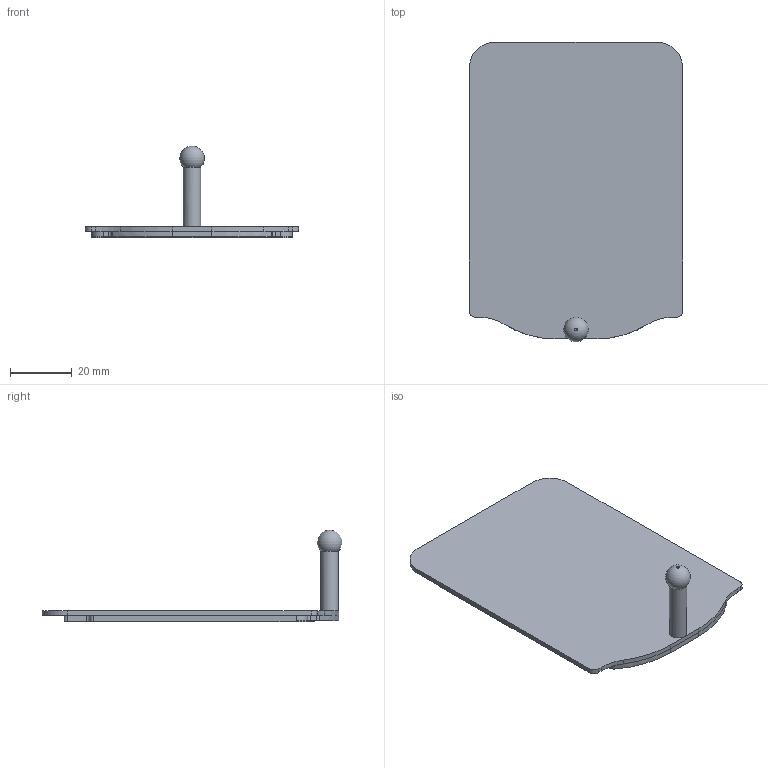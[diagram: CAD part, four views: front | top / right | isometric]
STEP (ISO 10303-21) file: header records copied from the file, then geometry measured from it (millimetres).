
FILE_DESCRIPTION(/* description */ (''),/* implementation_level */ '2;1');
FILE_NAME(/* name */ 'LA-3061-3308-C.stp',/* time_stamp */ '2018-10-04T08:21:03+01:00',/* author */ (''),/* organization */ (''),/* preprocessor_version */ 'ST-DEVELOPER v16',/* originating_system */ 'SIEMENS PLM Software NX 10.0',/* authorisation */ '');
FILE_SCHEMA (('AUTOMOTIVE_DESIGN { 1 0 10303 214 3 1 1 1 }'));
Length unit declared in the file: millimetre
Products named in the file (1): LA-3061-3308_C
Bounding box: 68.9 x 96.97 x 29.65 mm (x, y, z)
Volume: 21259.5 mm3; surface area: 14327.2 mm2
Topology: 1 solids, 1 shells, 55 faces, 147 edges, 94 vertices
Faces by surface type: cylinder 27, plane 26, cone 1, sphere 1
Full cylindrical faces by diameter (mm): 5.6 x1
Entity records: 1985 total; most frequent: CARTESIAN_POINT 317, DIRECTION 304, ORIENTED_EDGE 284, EDGE_CURVE 142, AXIS2_PLACEMENT_3D 110, VERTEX_POINT 93, LINE 84, VECTOR 84
